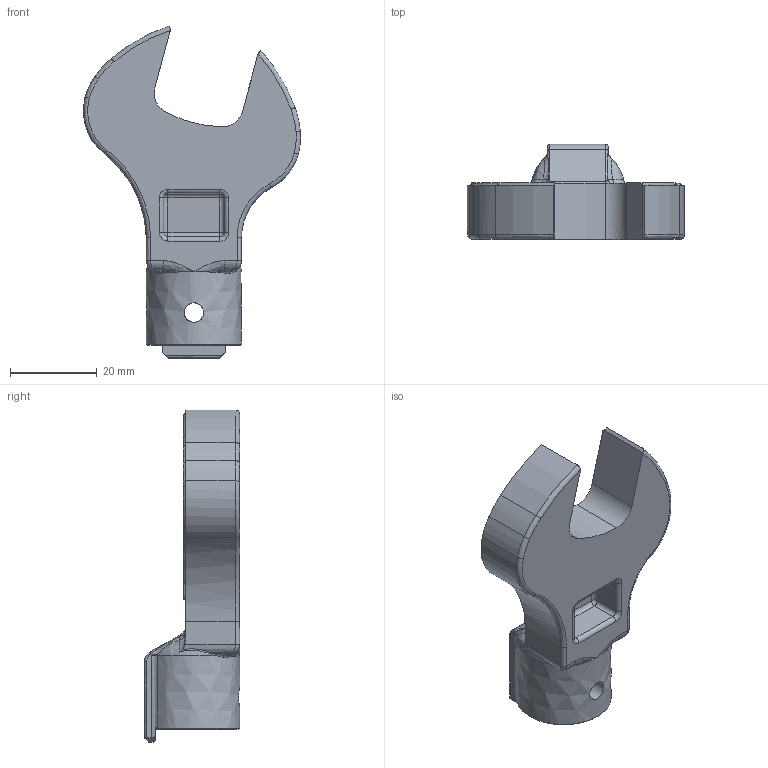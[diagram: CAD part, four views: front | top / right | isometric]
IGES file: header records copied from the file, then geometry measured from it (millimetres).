
Global section: file name: SH15DX21; native system: Autodesk Inventor 2016; preprocessor: unknown; author: Q600; date: 20151029.181136; units: millimetre
Bounding box: 50.17 x 22 x 76.72 mm (x, y, z)
Volume: 22351.9 mm3; surface area: 8394.9 mm2
Topology: 1 solids, 1 shells, 135 faces, 351 edges, 212 vertices
Faces by surface type: bspline 135
